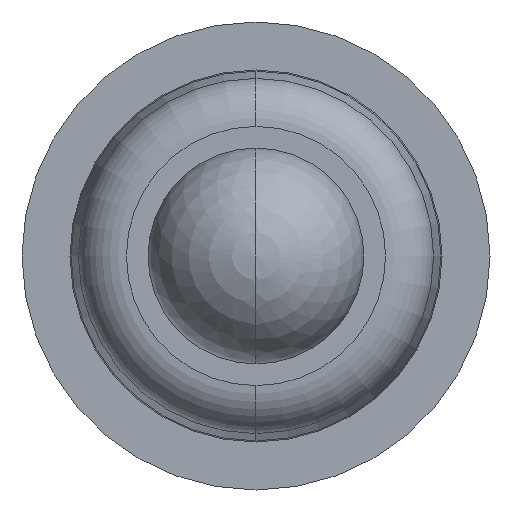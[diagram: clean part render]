
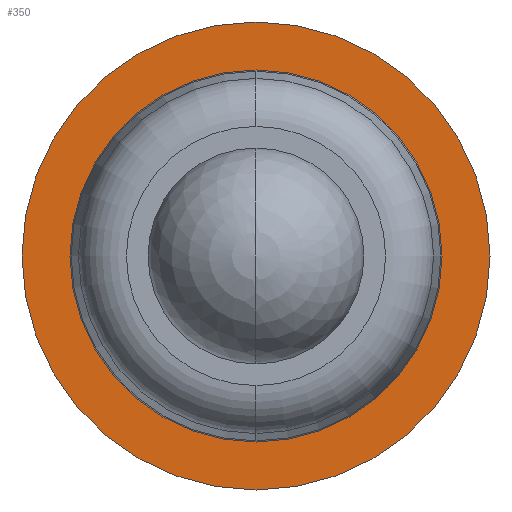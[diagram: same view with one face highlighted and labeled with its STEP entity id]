
A CAD part, left-side view. The second image highlights one B-rep face of the part: STEP entity #350.
In plain terms, the highlighted planar face has unit normal (-1, 0, 0).
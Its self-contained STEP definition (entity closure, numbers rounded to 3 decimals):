
#19=CARTESIAN_POINT('',(-0.5,0.,0.));
#20=DIRECTION('',(-1.,0.,0.));
#21=DIRECTION('',(0.,0.,-1.));
#22=AXIS2_PLACEMENT_3D('',#19,#20,#21);
#24=CARTESIAN_POINT('',(-0.5,0.,0.));
#25=DIRECTION('',(1.,0.,0.));
#26=DIRECTION('',(0.,0.,-1.));
#27=AXIS2_PLACEMENT_3D('',#24,#25,#26);
#29=CARTESIAN_POINT('',(-0.5,0.,0.));
#30=DIRECTION('',(1.,0.,0.));
#31=DIRECTION('',(0.,0.,-1.));
#32=AXIS2_PLACEMENT_3D('',#29,#30,#31);
#42=CARTESIAN_POINT('',(-0.5,0.,0.));
#43=DIRECTION('',(-1.,0.,0.));
#44=DIRECTION('',(0.,0.,-1.));
#45=AXIS2_PLACEMENT_3D('',#42,#43,#44);
#244=CARTESIAN_POINT('',(-0.5,0.,-0.975));
#246=VERTEX_POINT('',#244);
#247=CARTESIAN_POINT('',(-0.5,0.,-0.74));
#249=VERTEX_POINT('',#247);
#276=CARTESIAN_POINT('',(-0.5,0.,0.975));
#278=VERTEX_POINT('',#276);
#279=CARTESIAN_POINT('',(-0.5,0.,0.74));
#281=VERTEX_POINT('',#279);
#335=CARTESIAN_POINT('',(-0.5,0.,0.));
#336=DIRECTION('',(1.,0.,0.));
#337=DIRECTION('',(0.,0.,1.));
#338=AXIS2_PLACEMENT_3D('',#335,#336,#337);
#339=PLANE('',#338);
#340=ORIENTED_EDGE('',*,*,#327,.F.);
#341=ORIENTED_EDGE('',*,*,#316,.T.);
#342=EDGE_LOOP('',(#340,#341));
#343=FACE_OUTER_BOUND('',#342,.F.);
#345=ORIENTED_EDGE('',*,*,#344,.F.);
#347=ORIENTED_EDGE('',*,*,#346,.T.);
#348=EDGE_LOOP('',(#345,#347));
#349=FACE_BOUND('',#348,.F.);
#350=ADVANCED_FACE('',(#343,#349),#339,.F.);
#23=CIRCLE('',#22,0.975);
#28=CIRCLE('',#27,0.975);
#33=CIRCLE('',#32,0.74);
#46=CIRCLE('',#45,0.74);
#316=EDGE_CURVE('',#246,#278,#28,.T.);
#327=EDGE_CURVE('',#246,#278,#23,.T.);
#344=EDGE_CURVE('',#249,#281,#33,.T.);
#346=EDGE_CURVE('',#249,#281,#46,.T.);
